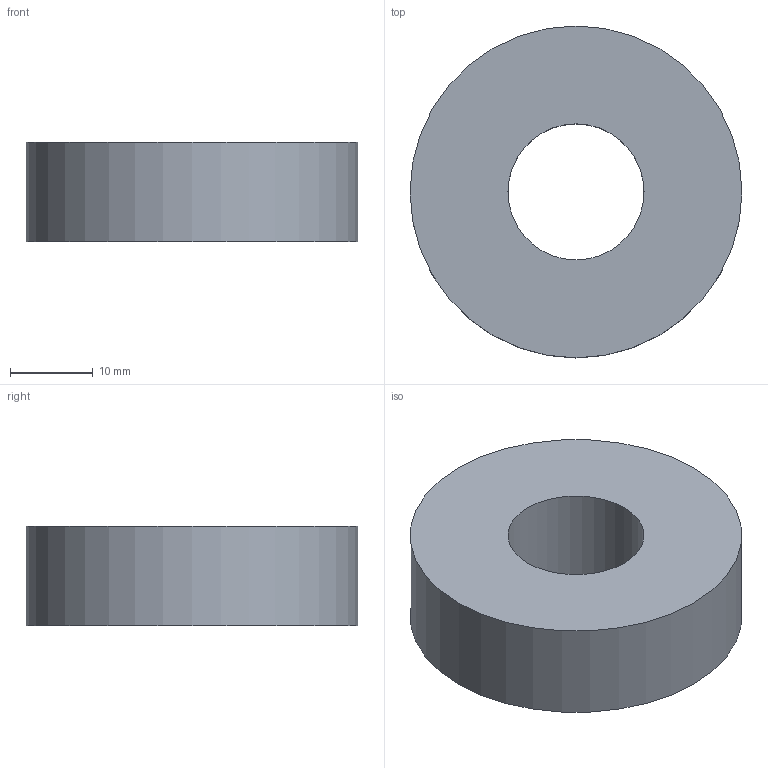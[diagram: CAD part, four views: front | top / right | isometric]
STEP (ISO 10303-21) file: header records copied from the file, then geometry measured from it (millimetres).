
FILE_DESCRIPTION(('Open CASCADE Model'),'2;1');
FILE_NAME('Open CASCADE Shape Model','2026-10-04T01:02:25',('Author'),( 'Open CASCADE'),'Open CASCADE STEP processor 8.0','Open CASCADE 8.0' ,'Unknown');
FILE_SCHEMA(('AUTOMOTIVE_DESIGN { 1 0 10303 214 1 1 1 1 }'));
Length unit declared in the file: millimetre
Products named in the file (1): Open CASCADE STEP translator 8.0 57
Bounding box: 40 x 40 x 12 mm (x, y, z)
Volume: 12544.8 mm3; surface area: 4217 mm2
Topology: 1 solids, 1 shells, 4 faces, 6 edges, 4 vertices
Faces by surface type: cylinder 2, plane 2
Full cylindrical faces by diameter (mm): 16.4 x1, 40 x1
Entity records: 186 total; most frequent: DIRECTION 32, CARTESIAN_POINT 27, ORIENTED_EDGE 12, PCURVE 12, DEFINITIONAL_REPRESENTATION 12, LINE 10, VECTOR 10, AXIS2_PLACEMENT_3D 9
